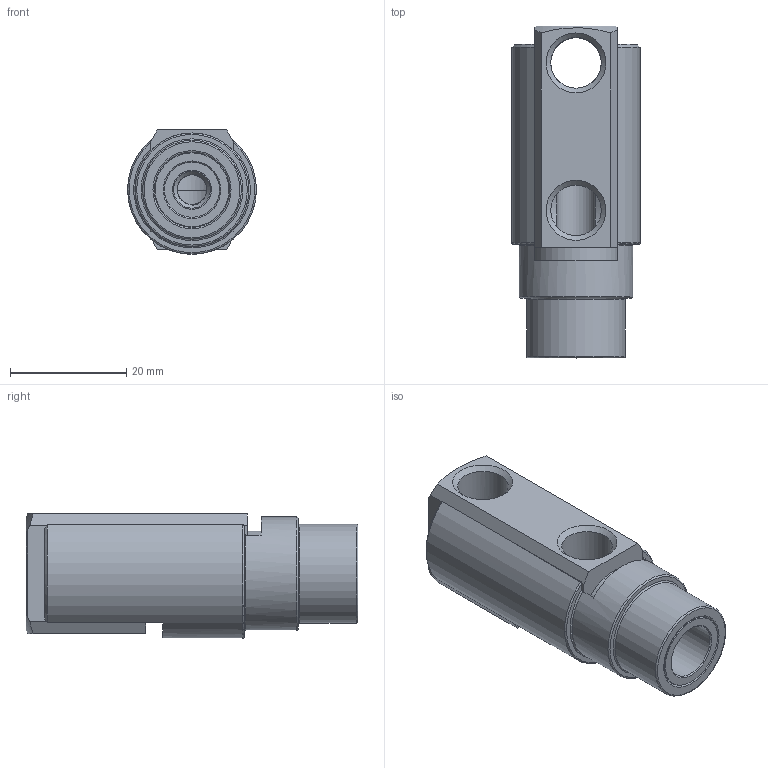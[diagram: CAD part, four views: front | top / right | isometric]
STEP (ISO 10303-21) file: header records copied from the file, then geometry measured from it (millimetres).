
FILE_DESCRIPTION(/* description */ (''),/* implementation_level */ '2;1');
FILE_NAME(/* name */ 'C:/Users/drich/Desktop/SC181H v3.step',/* time_stamp */ '2020-01-04T15:15:34-06:00',/* author */ (''),/* organization */ (''),/* preprocessor_version */ 'ST-DEVELOPER v18',/* originating_system */ 'Autodesk Translation Framework v8.12.0.6',/* authorisation */ '');
FILE_SCHEMA (('AUTOMOTIVE_DESIGN { 1 0 10303 214 3 1 1 }'));
Length unit declared in the file: inch
Products named in the file (3): SC181H; SC181H HEAD; SC181H Sleeve
Assembly tree (2 placements, depth 2):
  SC181H
    SC181H HEAD
    SC181H Sleeve
Bounding box: 22.2 x 57.15 x 21.41 mm (x, y, z)
Volume: 14806 mm3; surface area: 10481.9 mm2
Topology: 2 solids, 2 shells, 86 faces, 250 edges, 170 vertices
Faces by surface type: plane 33, cylinder 32, cone 13, torus 6, bspline 2
Full cylindrical faces by diameter (mm): 5.118 x7, 6.35 x7, 6.731 x1, 8.707 x3, 9.5 x1, 12.7 x1, 12.954 x1, 15.165 x1, 17.018 x1, 19.558 x1
Entity records: 4068 total; most frequent: CARTESIAN_POINT 1756, ORIENTED_EDGE 500, DIRECTION 444, EDGE_CURVE 250, AXIS2_PLACEMENT_3D 178, VERTEX_POINT 170, EDGE_LOOP 96, CIRCLE 89
